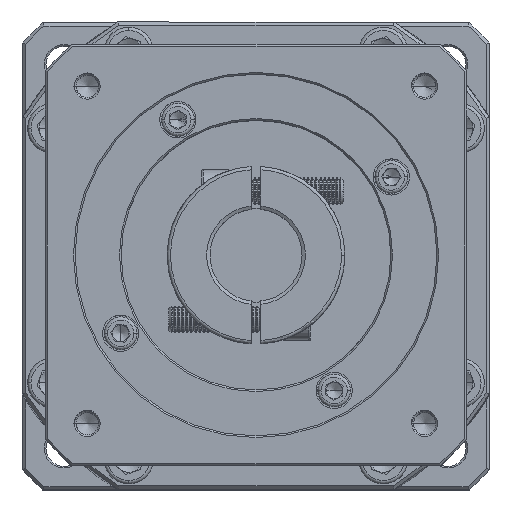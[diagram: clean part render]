
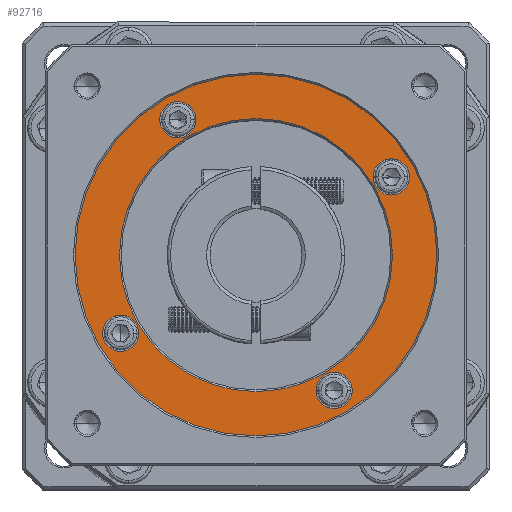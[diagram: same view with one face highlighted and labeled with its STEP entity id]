
A CAD part, top view. The second image highlights one B-rep face of the part: STEP entity #92716.
In plain terms, the highlighted planar face has unit normal (0, 0, 1).
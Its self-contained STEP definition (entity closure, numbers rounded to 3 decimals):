
#96 = ORIENTED_EDGE ( 'NONE', *, *, #15545, .T. ) ;
#608 = EDGE_LOOP ( 'NONE', ( #34527, #70808 ) ) ;
#3275 = DIRECTION ( 'NONE',  ( 1., 0., 0. ) ) ;
#3339 = ORIENTED_EDGE ( 'NONE', *, *, #116781, .T. ) ;
#3788 = CARTESIAN_POINT ( 'NONE',  ( -75.243, 92.54, 13.931 ) ) ;
#3998 = VERTEX_POINT ( 'NONE', #122761 ) ;
#4437 = FACE_OUTER_BOUND ( 'NONE', #93120, .T. ) ;
#4453 = CIRCLE ( 'NONE', #61000, 5.5 ) ;
#4818 = EDGE_CURVE ( 'NONE', #42605, #3998, #126396, .T. ) ;
#5809 = VERTEX_POINT ( 'NONE', #53134 ) ;
#7179 = VERTEX_POINT ( 'NONE', #51221 ) ;
#10002 = DIRECTION ( 'NONE',  ( 0., 0., 1. ) ) ;
#10435 = EDGE_CURVE ( 'NONE', #75357, #5809, #13160, .T. ) ;
#10577 = DIRECTION ( 'NONE',  ( 0., 0., -1. ) ) ;
#10784 = CIRCLE ( 'NONE', #98644, 5.5 ) ;
#10866 = DIRECTION ( 'NONE',  ( 0., 0., -1. ) ) ;
#11364 = DIRECTION ( 'NONE',  ( 0., 0., -1. ) ) ;
#12169 = FACE_BOUND ( 'NONE', #28838, .T. ) ;
#13160 = CIRCLE ( 'NONE', #69033, 55. ) ;
#13372 = CIRCLE ( 'NONE', #15803, 5.5 ) ;
#15545 = EDGE_CURVE ( 'NONE', #3998, #42605, #10784, .T. ) ;
#15803 = AXIS2_PLACEMENT_3D ( 'NONE', #102197, #11364, #101354 ) ;
#17921 = CARTESIAN_POINT ( 'NONE',  ( -110.88, 68.79, 13.931 ) ) ;
#19605 = EDGE_CURVE ( 'NONE', #7179, #63346, #52689, .T. ) ;
#21012 = ORIENTED_EDGE ( 'NONE', *, *, #87741, .T. ) ;
#21270 = DIRECTION ( 'NONE',  ( 0., 0., -1. ) ) ;
#21833 = CARTESIAN_POINT ( 'NONE',  ( -146.516, 45.04, 13.931 ) ) ;
#25597 = CIRCLE ( 'NONE', #88671, 5.5 ) ;
#26422 = DIRECTION ( 'NONE',  ( 0., 0., -1. ) ) ;
#27641 = FACE_BOUND ( 'NONE', #63773, .T. ) ;
#28735 = DIRECTION ( 'NONE',  ( 1., 0., 0. ) ) ;
#28838 = EDGE_LOOP ( 'NONE', ( #31829, #99196 ) ) ;
#30534 = EDGE_CURVE ( 'NONE', #5809, #75357, #60661, .T. ) ;
#31202 = CARTESIAN_POINT ( 'NONE',  ( -165.88, 68.79, 13.931 ) ) ;
#31829 = ORIENTED_EDGE ( 'NONE', *, *, #47182, .T. ) ;
#32706 = DIRECTION ( 'NONE',  ( 0., 0., -1. ) ) ;
#32749 = CARTESIAN_POINT ( 'NONE',  ( -69.743, 92.54, 13.931 ) ) ;
#34472 = DIRECTION ( 'NONE',  ( 1., 0., 0. ) ) ;
#34527 = ORIENTED_EDGE ( 'NONE', *, *, #96133, .T. ) ;
#37592 = AXIS2_PLACEMENT_3D ( 'NONE', #17921, #78081, #57403 ) ;
#37674 = EDGE_CURVE ( 'NONE', #95053, #62334, #4453, .T. ) ;
#38658 = DIRECTION ( 'NONE',  ( 0., 0., -1. ) ) ;
#40264 = CARTESIAN_POINT ( 'NONE',  ( -157.516, 45.04, 13.931 ) ) ;
#40347 = CARTESIAN_POINT ( 'NONE',  ( -87.13, 27.654, 13.931 ) ) ;
#40441 = DIRECTION ( 'NONE',  ( 1., 0., 0. ) ) ;
#42044 = DIRECTION ( 'NONE',  ( 1., 0., 0. ) ) ;
#42605 = VERTEX_POINT ( 'NONE', #103386 ) ;
#43023 = CIRCLE ( 'NONE', #58550, 41.5 ) ;
#43654 = ORIENTED_EDGE ( 'NONE', *, *, #37674, .T. ) ;
#45013 = AXIS2_PLACEMENT_3D ( 'NONE', #111171, #102532, #92524 ) ;
#47182 = EDGE_CURVE ( 'NONE', #59267, #68002, #25597, .T. ) ;
#48988 = VERTEX_POINT ( 'NONE', #95213 ) ;
#49930 = DIRECTION ( 'NONE',  ( 1., 0., 0. ) ) ;
#51221 = CARTESIAN_POINT ( 'NONE',  ( -152.38, 68.79, 13.931 ) ) ;
#52689 = CIRCLE ( 'NONE', #112491, 41.5 ) ;
#53134 = CARTESIAN_POINT ( 'NONE',  ( -55.88, 68.79, 13.931 ) ) ;
#55187 = ORIENTED_EDGE ( 'NONE', *, *, #10435, .T. ) ;
#56932 = AXIS2_PLACEMENT_3D ( 'NONE', #40347, #21270, #42044 ) ;
#57038 = EDGE_CURVE ( 'NONE', #68002, #59267, #108527, .T. ) ;
#57403 = DIRECTION ( 'NONE',  ( 1., 0., 0. ) ) ;
#58184 = CARTESIAN_POINT ( 'NONE',  ( -110.88, 68.79, 13.931 ) ) ;
#58273 = DIRECTION ( 'NONE',  ( 1., 0., 0. ) ) ;
#58550 = AXIS2_PLACEMENT_3D ( 'NONE', #96037, #26422, #67216 ) ;
#59179 = DIRECTION ( 'NONE',  ( 0., 0., -1. ) ) ;
#59267 = VERTEX_POINT ( 'NONE', #21833 ) ;
#60661 = CIRCLE ( 'NONE', #45013, 55. ) ;
#61000 = AXIS2_PLACEMENT_3D ( 'NONE', #99076, #10866, #49930 ) ;
#61784 = FACE_BOUND ( 'NONE', #121348, .T. ) ;
#62334 = VERTEX_POINT ( 'NONE', #95317 ) ;
#63346 = VERTEX_POINT ( 'NONE', #97804 ) ;
#63773 = EDGE_LOOP ( 'NONE', ( #3339, #21012 ) ) ;
#67216 = DIRECTION ( 'NONE',  ( 1., 0., 0. ) ) ;
#68002 = VERTEX_POINT ( 'NONE', #40264 ) ;
#68626 = CARTESIAN_POINT ( 'NONE',  ( -110.88, 68.79, 13.931 ) ) ;
#69033 = AXIS2_PLACEMENT_3D ( 'NONE', #58184, #10002, #118983 ) ;
#69871 = CARTESIAN_POINT ( 'NONE',  ( -134.63, 109.926, 13.931 ) ) ;
#70292 = DIRECTION ( 'NONE',  ( 0., 0., -1. ) ) ;
#70808 = ORIENTED_EDGE ( 'NONE', *, *, #19605, .T. ) ;
#73331 = ORIENTED_EDGE ( 'NONE', *, *, #30534, .T. ) ;
#75357 = VERTEX_POINT ( 'NONE', #31202 ) ;
#78081 = DIRECTION ( 'NONE',  ( 0., 0., 1. ) ) ;
#78494 = PLANE ( 'NONE',  #37592 ) ;
#82724 = CIRCLE ( 'NONE', #127043, 5.5 ) ;
#82741 = ORIENTED_EDGE ( 'NONE', *, *, #106932, .T. ) ;
#83090 = ORIENTED_EDGE ( 'NONE', *, *, #4818, .T. ) ;
#85284 = CARTESIAN_POINT ( 'NONE',  ( -92.63, 27.654, 13.931 ) ) ;
#87741 = EDGE_CURVE ( 'NONE', #113081, #48988, #88921, .T. ) ;
#88671 = AXIS2_PLACEMENT_3D ( 'NONE', #110930, #10577, #40441 ) ;
#88921 = CIRCLE ( 'NONE', #56932, 5.5 ) ;
#92524 = DIRECTION ( 'NONE',  ( 1., 0., 0. ) ) ;
#92716 = ADVANCED_FACE ( 'NONE', ( #4437, #103547, #61784, #27641, #94182, #12169 ), #78494, .T. ) ;
#93120 = EDGE_LOOP ( 'NONE', ( #73331, #55187 ) ) ;
#93302 = DIRECTION ( 'NONE',  ( 0., 0., -1. ) ) ;
#94182 = FACE_BOUND ( 'NONE', #115517, .T. ) ;
#95053 = VERTEX_POINT ( 'NONE', #3788 ) ;
#95213 = CARTESIAN_POINT ( 'NONE',  ( -81.63, 27.654, 13.931 ) ) ;
#95317 = CARTESIAN_POINT ( 'NONE',  ( -64.243, 92.54, 13.931 ) ) ;
#96037 = CARTESIAN_POINT ( 'NONE',  ( -110.88, 68.79, 13.931 ) ) ;
#96133 = EDGE_CURVE ( 'NONE', #63346, #7179, #43023, .T. ) ;
#97804 = CARTESIAN_POINT ( 'NONE',  ( -69.38, 68.79, 13.931 ) ) ;
#98384 = CARTESIAN_POINT ( 'NONE',  ( -134.63, 109.926, 13.931 ) ) ;
#98644 = AXIS2_PLACEMENT_3D ( 'NONE', #98384, #59179, #28735 ) ;
#99076 = CARTESIAN_POINT ( 'NONE',  ( -69.743, 92.54, 13.931 ) ) ;
#99196 = ORIENTED_EDGE ( 'NONE', *, *, #57038, .T. ) ;
#100457 = DIRECTION ( 'NONE',  ( 1., 0., 0. ) ) ;
#101354 = DIRECTION ( 'NONE',  ( 1., 0., 0. ) ) ;
#101367 = AXIS2_PLACEMENT_3D ( 'NONE', #69871, #70292, #100457 ) ;
#101555 = CARTESIAN_POINT ( 'NONE',  ( -152.016, 45.04, 13.931 ) ) ;
#102197 = CARTESIAN_POINT ( 'NONE',  ( -87.13, 27.654, 13.931 ) ) ;
#102532 = DIRECTION ( 'NONE',  ( 0., 0., 1. ) ) ;
#103360 = AXIS2_PLACEMENT_3D ( 'NONE', #101555, #32706, #3275 ) ;
#103386 = CARTESIAN_POINT ( 'NONE',  ( -140.13, 109.926, 13.931 ) ) ;
#103547 = FACE_BOUND ( 'NONE', #608, .T. ) ;
#106932 = EDGE_CURVE ( 'NONE', #62334, #95053, #82724, .T. ) ;
#108527 = CIRCLE ( 'NONE', #103360, 5.5 ) ;
#110930 = CARTESIAN_POINT ( 'NONE',  ( -152.016, 45.04, 13.931 ) ) ;
#111171 = CARTESIAN_POINT ( 'NONE',  ( -110.88, 68.79, 13.931 ) ) ;
#112491 = AXIS2_PLACEMENT_3D ( 'NONE', #68626, #38658, #58273 ) ;
#113081 = VERTEX_POINT ( 'NONE', #85284 ) ;
#115517 = EDGE_LOOP ( 'NONE', ( #96, #83090 ) ) ;
#116781 = EDGE_CURVE ( 'NONE', #48988, #113081, #13372, .T. ) ;
#118983 = DIRECTION ( 'NONE',  ( 1., 0., 0. ) ) ;
#121348 = EDGE_LOOP ( 'NONE', ( #82741, #43654 ) ) ;
#122761 = CARTESIAN_POINT ( 'NONE',  ( -129.13, 109.926, 13.931 ) ) ;
#126396 = CIRCLE ( 'NONE', #101367, 5.5 ) ;
#127043 = AXIS2_PLACEMENT_3D ( 'NONE', #32749, #93302, #34472 ) ;
